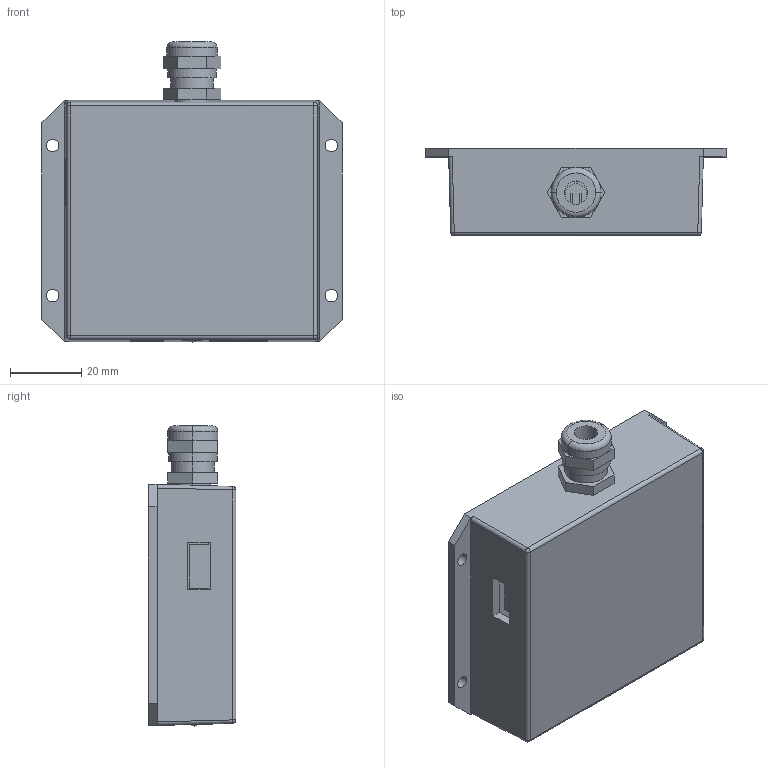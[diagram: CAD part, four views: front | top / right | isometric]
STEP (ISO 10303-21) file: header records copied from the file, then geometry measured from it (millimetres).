
FILE_DESCRIPTION((''),'2;1');
FILE_NAME('萇埭碟_ASM','2020-11-26T',('Administrator'),(''),'CREO PARAMETRIC BY PTC INC, 2014190','CREO PARAMETRIC BY PTC INC, 2014190','');
FILE_SCHEMA(('CONFIG_CONTROL_DESIGN'));
Length unit declared in the file: millimetre
Products named in the file (7): PCB_2_1; LED_1_1; BTM_7_1; TOP_4_1; WATER_PROOF_PLUG_1; ASM0001_ASM_11_ASM_1_ASM; 萇埭碟_ASM
Assembly tree (6 placements, depth 3):
  萇埭碟_ASM
    ASM0001_ASM_11_ASM_1_ASM
      PCB_2_1
      LED_1_1
      BTM_7_1
      TOP_4_1
      WATER_PROOF_PLUG_1
Bounding box: 84 x 24.5 x 84 mm (x, y, z)
Volume: 50588.1 mm3; surface area: 46589.7 mm2
Topology: 5 solids, 5 shells, 276 faces, 718 edges, 468 vertices
Faces by surface type: plane 157, cylinder 85, cone 16, torus 10, sphere 8
Entity records: 8851 total; most frequent: CARTESIAN_POINT 1671, DIRECTION 1516, ORIENTED_EDGE 1420, EDGE_CURVE 710, AXIS2_PLACEMENT_3D 532, VERTEX_POINT 468, VECTOR 452, LINE 452
